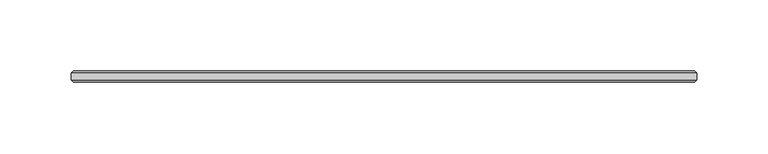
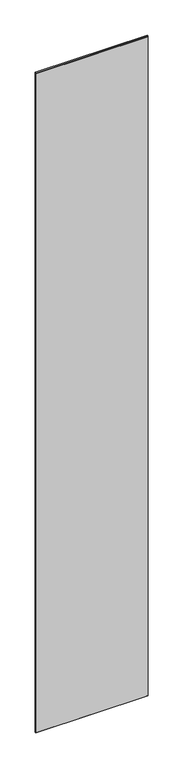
"""IFC4 building model written with IfcOpenShell, lengths in millimetres: plate geometry, 1-AMG-1-Панель одинарный витраж 8, 10 : Смещение 32 Толщина 8mm."""

from ifc_helpers import new_model, si_unit, origin, place, context, project, spatial, faceted_brep, source, transform, mapped, element, save


def plate_d2337f3b(model_context):
    return source(origin(), model_context, "Body", "Brep", [
        faceted_brep([(220.0, 29.5038347, 2722.8), (220.0, 34.4961653, 2722.8), (-220.0, 34.4961653, 2722.8), (-220.0, 29.5038347, 2722.8), (220.0, 34.4961653, -7.0), (220.0, 29.5038347, -7.0), (-220.0, 29.5038347, -7.0), (-220.0, 34.4961653, -7.0), (-218.4961653, 36.0, 2721.2961653), (218.4961653, 36.0, 2721.2961653), (218.4961653, 36.0, -5.5039422), (-218.4961653, 36.0, -5.5039422), (218.4961653, 28.0, 2721.2961653), (-218.4961653, 28.0, 2721.2961653), (-218.4961653, 28.0, -5.4961653), (218.4961653, 28.0, -5.4961653)], [[[0, 1, 2, 3]], [[4, 5, 6, 7]], [[8, 9, 10, 11]], [[3, 2, 7, 6]], [[12, 13, 14, 15]], [[1, 0, 5, 4]], [[1, 4, 10, 9]], [[5, 0, 12, 15]], [[7, 2, 8, 11]], [[3, 6, 14, 13]], [[0, 3, 13, 12]], [[2, 1, 9, 8]], [[6, 5, 15, 14]], [[4, 7, 11, 10]]]),
    ])


if __name__ == "__main__":
    model = new_model("IFC4")
    model_context = context("Model", 3, world=origin())
    ifc_project = project(units=[si_unit("LENGTHUNIT", "METRE", prefix="MILLI")], contexts=[model_context])
    site = spatial("IfcSite", under=ifc_project)
    building = spatial("IfcBuilding", under=site)
    placement = place(None, origin())
    plate_shape = plate_d2337f3b(model_context)
    element("IfcPlate", 1, ObjectType="1-AMG-1-Панель одинарный витраж 8, 10 : Смещение 32 Толщина 8mm", at=placement, inside=building, context=model_context, shape_type="MappedRepresentation", body=[
        mapped(plate_shape, transform((0.0, 0.0, 0.0), x_axis=(1.0, 0.0, 0.0), y_axis=(0.0, 1.0, 0.0), z_axis=(0.0, 0.0, 1.0))),
    ])
    save(model, "model.ifc")
